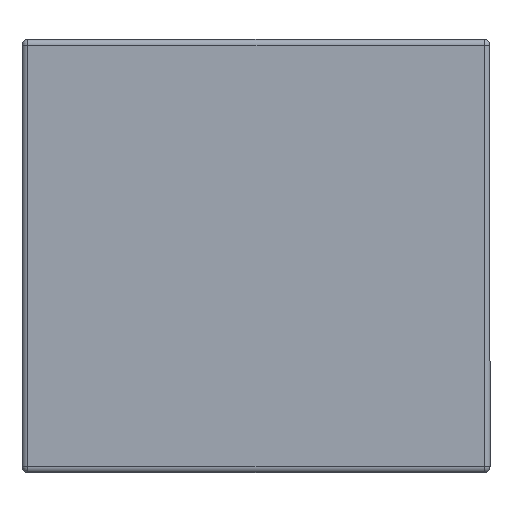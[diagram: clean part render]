
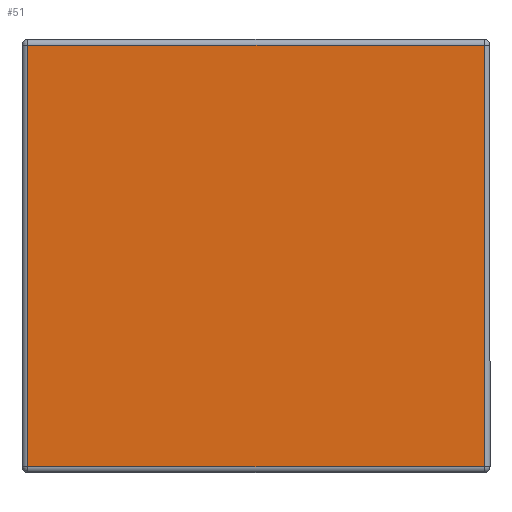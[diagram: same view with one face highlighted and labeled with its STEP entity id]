
A CAD part, front view. The second image highlights one B-rep face of the part: STEP entity #51.
In plain terms, the highlighted planar face has unit normal (0, -1, 0).
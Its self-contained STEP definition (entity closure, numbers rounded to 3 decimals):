
#51 = ADVANCED_FACE ( 'NONE', ( #476 ), #475, .T. ) ;
#52 = EDGE_LOOP ( 'NONE', ( #53, #57, #238, #193 ) ) ;
#53 = ORIENTED_EDGE ( 'NONE', *, *, #54, .T. ) ;
#54 = EDGE_CURVE ( 'NONE', #55, #56, #470, .T. ) ;
#55 = VERTEX_POINT ( 'NONE', #466 ) ;
#56 = VERTEX_POINT ( 'NONE', #465 ) ;
#57 = ORIENTED_EDGE ( 'NONE', *, *, #58, .T. ) ;
#58 = EDGE_CURVE ( 'NONE', #56, #59, #464, .T. ) ;
#59 = VERTEX_POINT ( 'NONE', #591 ) ;
#193 = ORIENTED_EDGE ( 'NONE', *, *, #194, .T. ) ;
#194 = EDGE_CURVE ( 'NONE', #240, #55, #993, .T. ) ;
#238 = ORIENTED_EDGE ( 'NONE', *, *, #239, .T. ) ;
#239 = EDGE_CURVE ( 'NONE', #59, #240, #903, .T. ) ;
#240 = VERTEX_POINT ( 'NONE', #899 ) ;
#461 = DIRECTION ( 'NONE',  ( 1., 0., 0. ) ) ;
#462 = VECTOR ( 'NONE', #461, 1000. ) ;
#463 = CARTESIAN_POINT ( 'NONE',  ( 1019.48, -260., -80. ) ) ;
#464 = LINE ( 'NONE', #463, #462 ) ;
#465 = CARTESIAN_POINT ( 'NONE',  ( -580., -260., -80. ) ) ;
#466 = CARTESIAN_POINT ( 'NONE',  ( -580., -260., 1380. ) ) ;
#467 = DIRECTION ( 'NONE',  ( 0., 0., -1. ) ) ;
#468 = VECTOR ( 'NONE', #467, 1000. ) ;
#469 = CARTESIAN_POINT ( 'NONE',  ( -580., -260., -100. ) ) ;
#470 = LINE ( 'NONE', #469, #468 ) ;
#471 = DIRECTION ( 'NONE',  ( 0., 0., -1. ) ) ;
#472 = DIRECTION ( 'NONE',  ( 0., -1., 0. ) ) ;
#473 = CARTESIAN_POINT ( 'NONE',  ( -600., -260., -100. ) ) ;
#474 = AXIS2_PLACEMENT_3D ( 'NONE', #473, #472, #471 ) ;
#475 = PLANE ( 'NONE',  #474 ) ;
#476 = FACE_OUTER_BOUND ( 'NONE', #52, .T. ) ;
#591 = CARTESIAN_POINT ( 'NONE',  ( 999.48, -260., -80. ) ) ;
#899 = CARTESIAN_POINT ( 'NONE',  ( 999.48, -260., 1380. ) ) ;
#900 = DIRECTION ( 'NONE',  ( 0., 0., 1. ) ) ;
#901 = VECTOR ( 'NONE', #900, 1000. ) ;
#902 = CARTESIAN_POINT ( 'NONE',  ( 999.48, -260., 1400. ) ) ;
#903 = LINE ( 'NONE', #902, #901 ) ;
#990 = DIRECTION ( 'NONE',  ( -1., 0., 0. ) ) ;
#991 = VECTOR ( 'NONE', #990, 1000. ) ;
#992 = CARTESIAN_POINT ( 'NONE',  ( -600., -260., 1380. ) ) ;
#993 = LINE ( 'NONE', #992, #991 ) ;
